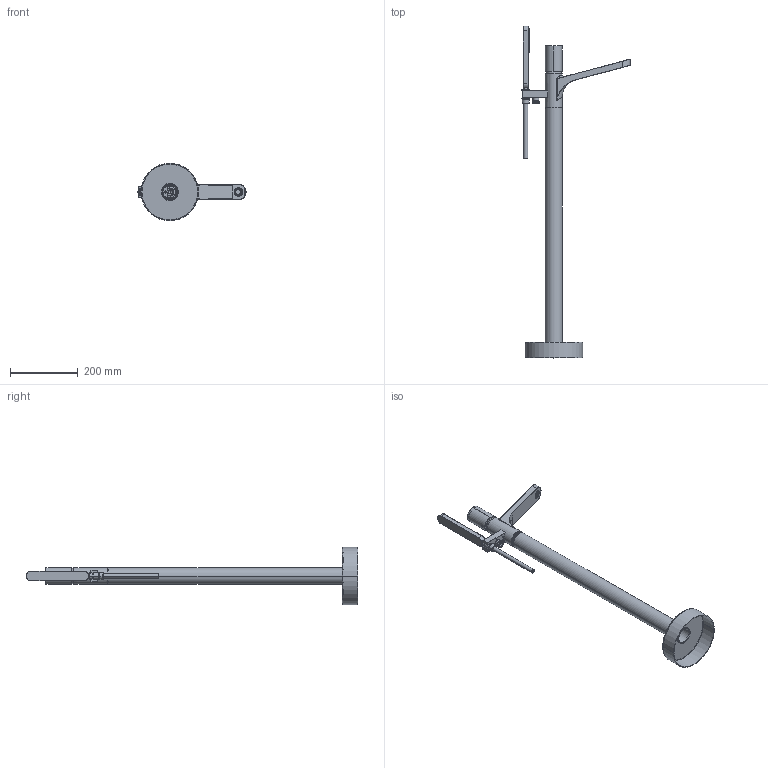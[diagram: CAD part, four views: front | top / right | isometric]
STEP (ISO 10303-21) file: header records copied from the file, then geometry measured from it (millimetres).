
FILE_DESCRIPTION((''),'2;1');
FILE_NAME('F4164_4_FILE_3D','2018-11-06T',('ivanv'),(''),'CREO PARAMETRIC BY PTC INC, 2016260','CREO PARAMETRIC BY PTC INC, 2016260','');
FILE_SCHEMA(('CONFIG_CONTROL_DESIGN'));
Products named in the file (1): F4164_4_FILE_3D
Bounding box: 319.68 x 981.5 x 170 mm (x, y, z)
Volume: 609001.8 mm3; surface area: 468652.9 mm2
Topology: 4 solids, 4 shells, 789 faces, 1833 edges, 1130 vertices
Faces by surface type: cylinder 353, plane 194, bspline 103, torus 67, cone 60, sphere 12
Entity records: 44691 total; most frequent: CARTESIAN_POINT 27284, ORIENTED_EDGE 3646, DIRECTION 3544, EDGE_CURVE 1823, AXIS2_PLACEMENT_3D 1479, VERTEX_POINT 1130, EDGE_LOOP 901, CIRCLE 793
